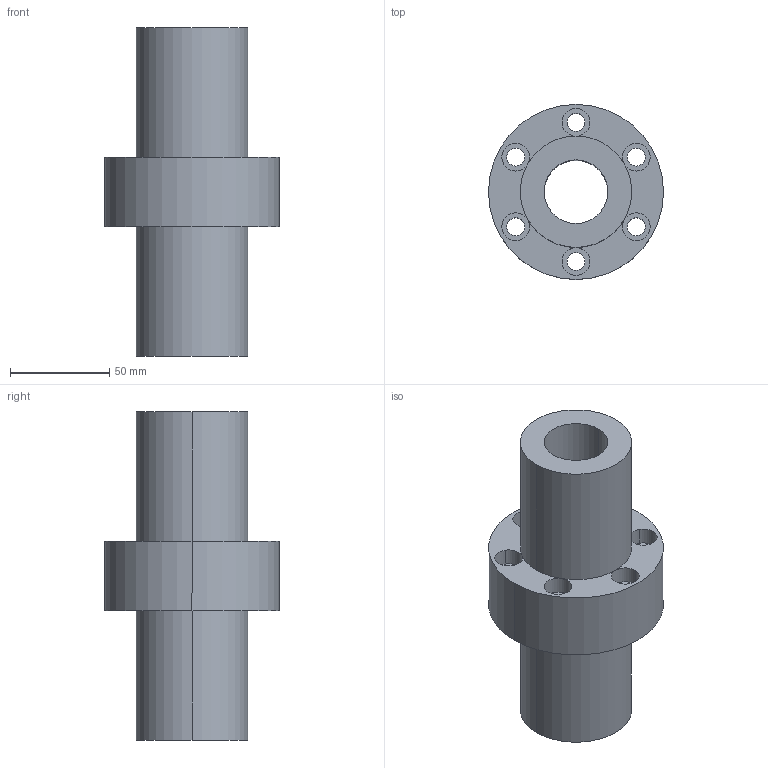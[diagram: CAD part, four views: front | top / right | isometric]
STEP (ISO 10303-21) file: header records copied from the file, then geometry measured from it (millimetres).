
FILE_DESCRIPTION((''),'2;1');
FILE_NAME('32-10T3','2008-04-07T',('yanyu'),(''),'PRO/ENGINEER BY PARAMETRIC TECHNOLOGY CORPORATION, 2005070','PRO/ENGINEER BY PARAMETRIC TECHNOLOGY CORPORATION, 2005070','');
FILE_SCHEMA(('CONFIG_CONTROL_DESIGN'));
Length unit declared in the file: millimetre
Products named in the file (1): 32-10T3
Bounding box: 88 x 88 x 165 mm (x, y, z)
Volume: 382398.6 mm3; surface area: 65665.6 mm2
Topology: 1 solids, 1 shells, 42 faces, 116 edges, 78 vertices
Faces by surface type: cylinder 32, plane 10
Entity records: 1466 total; most frequent: DIRECTION 284, CARTESIAN_POINT 236, ORIENTED_EDGE 232, AXIS2_PLACEMENT_3D 126, EDGE_CURVE 116, CIRCLE 84, VERTEX_POINT 78, EDGE_LOOP 58
